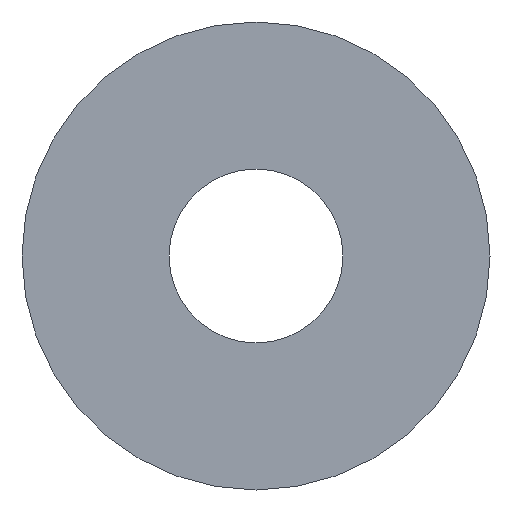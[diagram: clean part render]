
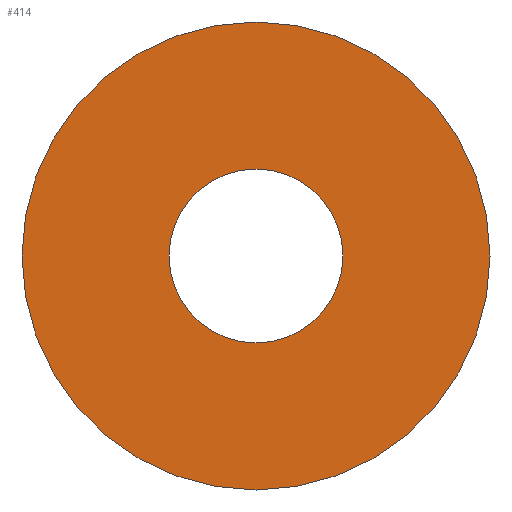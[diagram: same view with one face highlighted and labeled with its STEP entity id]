
A CAD part, front view. The second image highlights one B-rep face of the part: STEP entity #414.
In plain terms, the highlighted planar face has unit normal (0, -1, 0).
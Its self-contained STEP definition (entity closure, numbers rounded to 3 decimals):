
#31 = CYLINDRICAL_SURFACE('',#32,20.2);
#32 = AXIS2_PLACEMENT_3D('',#33,#34,#35);
#33 = CARTESIAN_POINT('',(31.,-32.,43.));
#34 = DIRECTION('',(0.,1.,0.));
#35 = DIRECTION('',(0.,-0.,1.));
#56 = VERTEX_POINT('',#57);
#57 = CARTESIAN_POINT('',(31.,-32.,63.2));
#78 = EDGE_CURVE('',#56,#56,#79,.T.);
#79 = SURFACE_CURVE('',#80,(#85,#92),.PCURVE_S1.);
#80 = CIRCLE('',#81,20.2);
#81 = AXIS2_PLACEMENT_3D('',#82,#83,#84);
#82 = CARTESIAN_POINT('',(31.,-32.,43.));
#83 = DIRECTION('',(0.,1.,0.));
#84 = DIRECTION('',(0.,-0.,1.));
#85 = PCURVE('',#31,#86);
#86 = DEFINITIONAL_REPRESENTATION('',(#87),#91);
#87 = LINE('',#88,#89);
#88 = CARTESIAN_POINT('',(0.,0.));
#89 = VECTOR('',#90,1.);
#90 = DIRECTION('',(1.,0.));
#91 = ( GEOMETRIC_REPRESENTATION_CONTEXT(2) 
PARAMETRIC_REPRESENTATION_CONTEXT() REPRESENTATION_CONTEXT('2D SPACE',''
  ) );
#92 = PCURVE('',#93,#98);
#93 = PLANE('',#94);
#94 = AXIS2_PLACEMENT_3D('',#95,#96,#97);
#95 = CARTESIAN_POINT('',(31.,-32.,43.));
#96 = DIRECTION('',(0.,1.,0.));
#97 = DIRECTION('',(0.,-0.,1.));
#98 = DEFINITIONAL_REPRESENTATION('',(#99),#103);
#99 = CIRCLE('',#100,20.2);
#100 = AXIS2_PLACEMENT_2D('',#101,#102);
#101 = CARTESIAN_POINT('',(0.,0.));
#102 = DIRECTION('',(1.,0.));
#103 = ( GEOMETRIC_REPRESENTATION_CONTEXT(2) 
PARAMETRIC_REPRESENTATION_CONTEXT() REPRESENTATION_CONTEXT('2D SPACE',''
  ) );
#372 = CYLINDRICAL_SURFACE('',#373,7.5);
#373 = AXIS2_PLACEMENT_3D('',#374,#375,#376);
#374 = CARTESIAN_POINT('',(31.,-33.,43.));
#375 = DIRECTION('',(0.,1.,0.));
#376 = DIRECTION('',(0.,-0.,1.));
#414 = ADVANCED_FACE('',(#415,#418),#93,.F.);
#415 = FACE_BOUND('',#416,.F.);
#416 = EDGE_LOOP('',(#417));
#417 = ORIENTED_EDGE('',*,*,#78,.T.);
#418 = FACE_BOUND('',#419,.F.);
#419 = EDGE_LOOP('',(#420));
#420 = ORIENTED_EDGE('',*,*,#421,.F.);
#421 = EDGE_CURVE('',#422,#422,#424,.T.);
#422 = VERTEX_POINT('',#423);
#423 = CARTESIAN_POINT('',(31.,-32.,50.5));
#424 = SURFACE_CURVE('',#425,(#430,#437),.PCURVE_S1.);
#425 = CIRCLE('',#426,7.5);
#426 = AXIS2_PLACEMENT_3D('',#427,#428,#429);
#427 = CARTESIAN_POINT('',(31.,-32.,43.));
#428 = DIRECTION('',(0.,1.,0.));
#429 = DIRECTION('',(0.,-0.,1.));
#430 = PCURVE('',#93,#431);
#431 = DEFINITIONAL_REPRESENTATION('',(#432),#436);
#432 = CIRCLE('',#433,7.5);
#433 = AXIS2_PLACEMENT_2D('',#434,#435);
#434 = CARTESIAN_POINT('',(0.,0.));
#435 = DIRECTION('',(1.,0.));
#436 = ( GEOMETRIC_REPRESENTATION_CONTEXT(2) 
PARAMETRIC_REPRESENTATION_CONTEXT() REPRESENTATION_CONTEXT('2D SPACE',''
  ) );
#437 = PCURVE('',#372,#438);
#438 = DEFINITIONAL_REPRESENTATION('',(#439),#443);
#439 = LINE('',#440,#441);
#440 = CARTESIAN_POINT('',(0.,1.));
#441 = VECTOR('',#442,1.);
#442 = DIRECTION('',(1.,0.));
#443 = ( GEOMETRIC_REPRESENTATION_CONTEXT(2) 
PARAMETRIC_REPRESENTATION_CONTEXT() REPRESENTATION_CONTEXT('2D SPACE',''
  ) );
